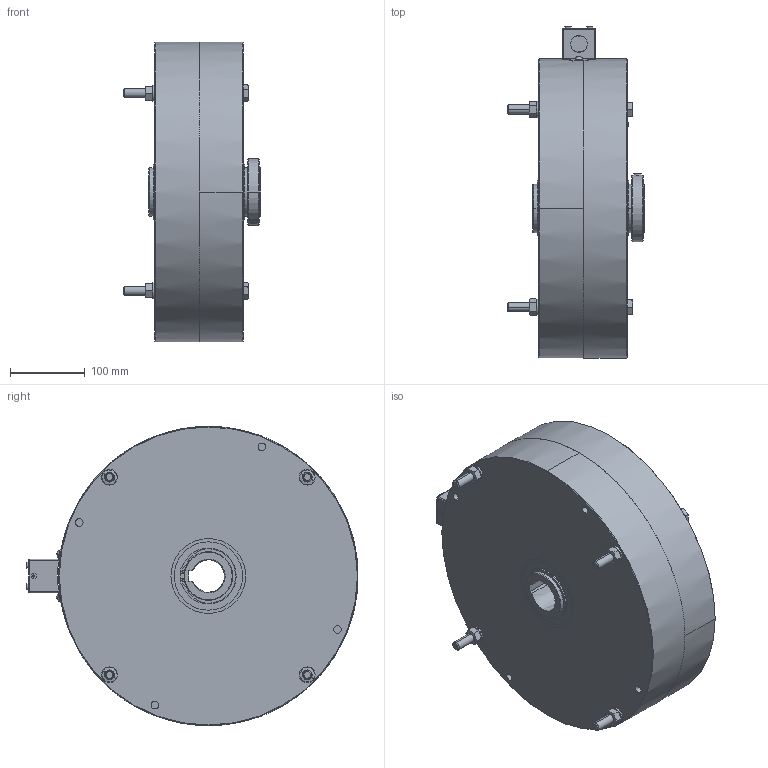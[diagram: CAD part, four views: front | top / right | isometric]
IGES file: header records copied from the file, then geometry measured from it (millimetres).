
Global section: file name: No Iges File Name specified; native system: Autodesk Inventor 2010; preprocessor: AutoDesk Inventor Iges Exporter R2010; author: lzuniga; date: 20101202.141757; units: millimetre
Bounding box: 183.37 x 443.83 x 400.05 mm (x, y, z)
Volume: 14763295 mm3; surface area: 543226 mm2
Topology: 24 solids, 25 shells, 511 faces, 1230 edges, 785 vertices
Faces by surface type: plane 227, bspline 126, cylinder 73, revolution 44, cone 32, sphere 5, torus 4
